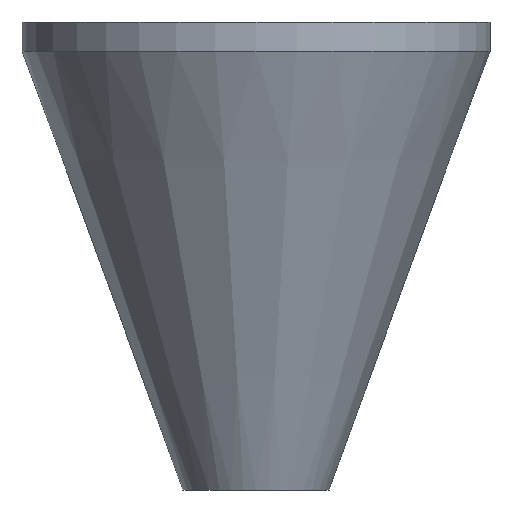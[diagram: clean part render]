
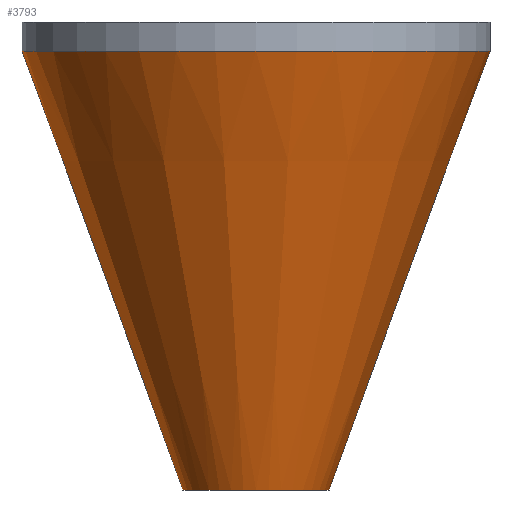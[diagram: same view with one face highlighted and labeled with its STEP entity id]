
A CAD part, left-side view. The second image highlights one B-rep face of the part: STEP entity #3793.
In plain terms, the highlighted conical face has half-angle 20.136 degrees and reference radius 32 mm.
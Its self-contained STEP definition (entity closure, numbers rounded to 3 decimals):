
#17=CONICAL_SURFACE('',#4325,32.,0.351);
#367=FACE_OUTER_BOUND('',#876,.T.);
#876=EDGE_LOOP('',(#2951,#2952,#2953,#2954));
#1050=LINE('',#6408,#1222);
#1222=VECTOR('',#5209,32.);
#1725=CIRCLE('',#4318,32.);
#1728=CIRCLE('',#4326,10.);
#2067=VERTEX_POINT('',#6392);
#2070=VERTEX_POINT('',#6406);
#2414=EDGE_CURVE('',#2067,#2067,#1725,.T.);
#2419=EDGE_CURVE('',#2070,#2070,#1728,.T.);
#2420=EDGE_CURVE('',#2070,#2067,#1050,.T.);
#2951=ORIENTED_EDGE('',*,*,#2419,.T.);
#2952=ORIENTED_EDGE('',*,*,#2420,.T.);
#2953=ORIENTED_EDGE('',*,*,#2414,.T.);
#2954=ORIENTED_EDGE('',*,*,#2420,.F.);
#3793=ADVANCED_FACE('',(#367),#17,.T.);
#4318=AXIS2_PLACEMENT_3D('',#6394,#5189,#5190);
#4325=AXIS2_PLACEMENT_3D('',#6405,#5205,#5206);
#4326=AXIS2_PLACEMENT_3D('',#6407,#5207,#5208);
#5189=DIRECTION('center_axis',(0.,0.,-1.));
#5190=DIRECTION('ref_axis',(-1.,0.,0.));
#5205=DIRECTION('center_axis',(0.,0.,1.));
#5206=DIRECTION('ref_axis',(-1.,0.,0.));
#5207=DIRECTION('center_axis',(0.,0.,1.));
#5208=DIRECTION('ref_axis',(1.,0.,0.));
#5209=DIRECTION('',(0.344,0.,0.939));
#6392=CARTESIAN_POINT('',(32.,0.,60.));
#6394=CARTESIAN_POINT('Origin',(0.,0.,60.));
#6405=CARTESIAN_POINT('Origin',(0.,0.,60.));
#6406=CARTESIAN_POINT('',(10.,0.,0.));
#6407=CARTESIAN_POINT('Origin',(0.,0.,0.));
#6408=CARTESIAN_POINT('',(32.,0.,60.));
